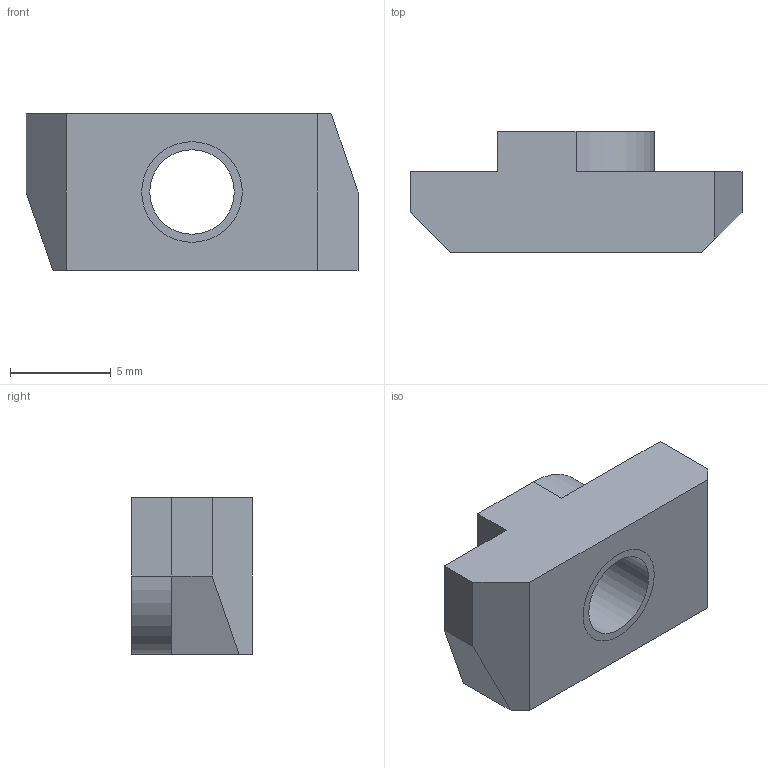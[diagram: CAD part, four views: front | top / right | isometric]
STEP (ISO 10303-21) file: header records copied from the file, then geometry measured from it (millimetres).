
FILE_DESCRIPTION((''),'2;1');
FILE_NAME('DAM0530','2002-12-27T',('Lipro doo'),('Lipro d.o.o.'),'PRO/ENGINEER BY PARAMETRIC TECHNOLOGY CORPORATION, 2001150','PRO/ENGINEER BY PARAMETRIC TECHNOLOGY CORPORATION, 2001150','');
FILE_SCHEMA(('CONFIG_CONTROL_DESIGN'));
Length unit declared in the file: millimetre
Products named in the file (1): DAM0530
Bounding box: 16.5 x 6 x 7.8 mm (x, y, z)
Volume: 494.3 mm3; surface area: 607.9 mm2
Topology: 1 solids, 2 shells, 22 faces, 58 edges, 38 vertices
Faces by surface type: plane 14, cylinder 6, cone 2
Entity records: 728 total; most frequent: CARTESIAN_POINT 119, DIRECTION 118, ORIENTED_EDGE 112, EDGE_CURVE 58, VECTOR 44, LINE 44, VERTEX_POINT 38, AXIS2_PLACEMENT_3D 37
